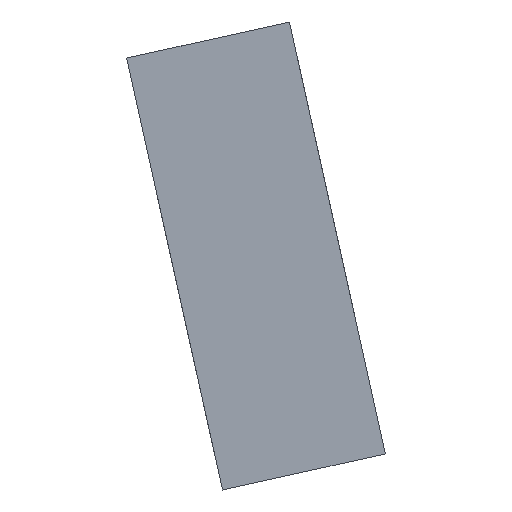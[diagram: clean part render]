
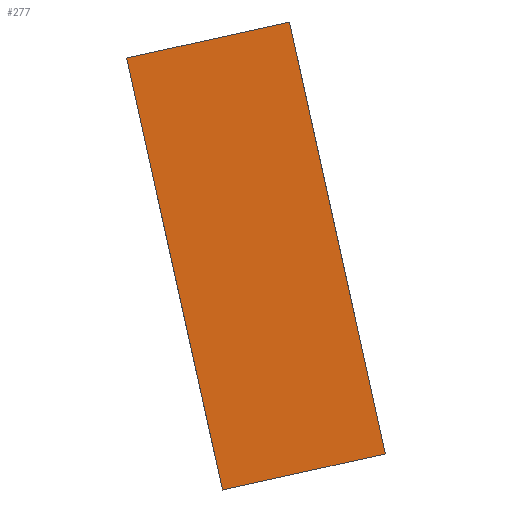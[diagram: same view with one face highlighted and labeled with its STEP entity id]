
A CAD part, front view. The second image highlights one B-rep face of the part: STEP entity #277.
In plain terms, the highlighted planar face has unit normal (0, -1, 0).
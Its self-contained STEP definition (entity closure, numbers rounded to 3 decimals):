
#21 = EDGE_CURVE('',#22,#24,#26,.T.);
#22 = VERTEX_POINT('',#23);
#23 = CARTESIAN_POINT('',(-9.183,217.255,-273.342));
#24 = VERTEX_POINT('',#25);
#25 = CARTESIAN_POINT('',(-17.839,217.255,-234.29));
#26 = SURFACE_CURVE('',#27,(#31,#43),.PCURVE_S1.);
#27 = LINE('',#28,#29);
#28 = CARTESIAN_POINT('',(-9.183,217.255,-273.342));
#29 = VECTOR('',#30,1.);
#30 = DIRECTION('',(-0.216,0.,0.976));
#31 = PCURVE('',#32,#37);
#32 = PLANE('',#33);
#33 = AXIS2_PLACEMENT_3D('',#34,#35,#36);
#34 = CARTESIAN_POINT('',(-9.183,217.255,-273.342));
#35 = DIRECTION('',(0.976,0.,0.216));
#36 = DIRECTION('',(-0.216,0.,0.976));
#37 = DEFINITIONAL_REPRESENTATION('',(#38),#42);
#38 = LINE('',#39,#40);
#39 = CARTESIAN_POINT('',(0.,0.));
#40 = VECTOR('',#41,1.);
#41 = DIRECTION('',(1.,0.));
#42 = ( GEOMETRIC_REPRESENTATION_CONTEXT(2) 
PARAMETRIC_REPRESENTATION_CONTEXT() REPRESENTATION_CONTEXT('2D SPACE',''
  ) );
#43 = PCURVE('',#44,#49);
#44 = PLANE('',#45);
#45 = AXIS2_PLACEMENT_3D('',#46,#47,#48);
#46 = CARTESIAN_POINT('',(-9.183,217.255,-273.342));
#47 = DIRECTION('',(0.,1.,0.));
#48 = DIRECTION('',(-0.216,0.,0.976));
#49 = DEFINITIONAL_REPRESENTATION('',(#50),#54);
#50 = LINE('',#51,#52);
#51 = CARTESIAN_POINT('',(0.,0.));
#52 = VECTOR('',#53,1.);
#53 = DIRECTION('',(1.,0.));
#54 = ( GEOMETRIC_REPRESENTATION_CONTEXT(2) 
PARAMETRIC_REPRESENTATION_CONTEXT() REPRESENTATION_CONTEXT('2D SPACE',''
  ) );
#72 = PLANE('',#73);
#73 = AXIS2_PLACEMENT_3D('',#74,#75,#76);
#74 = CARTESIAN_POINT('',(-9.183,217.255,-273.342));
#75 = DIRECTION('',(-0.216,0.,0.976));
#76 = DIRECTION('',(0.976,0.,0.216));
#126 = PLANE('',#127);
#127 = AXIS2_PLACEMENT_3D('',#128,#129,#130);
#128 = CARTESIAN_POINT('',(-17.839,217.255,-234.29));
#129 = DIRECTION('',(-0.216,0.,0.976));
#130 = DIRECTION('',(0.976,0.,0.216));
#277 = ADVANCED_FACE('',(#278),#44,.F.);
#278 = FACE_BOUND('',#279,.F.);
#279 = EDGE_LOOP('',(#280,#303,#304,#327));
#280 = ORIENTED_EDGE('',*,*,#281,.F.);
#281 = EDGE_CURVE('',#22,#282,#284,.T.);
#282 = VERTEX_POINT('',#283);
#283 = CARTESIAN_POINT('',(5.535,217.255,-270.08));
#284 = SURFACE_CURVE('',#285,(#289,#296),.PCURVE_S1.);
#285 = LINE('',#286,#287);
#286 = CARTESIAN_POINT('',(-9.183,217.255,-273.342));
#287 = VECTOR('',#288,1.);
#288 = DIRECTION('',(0.976,0.,0.216));
#289 = PCURVE('',#44,#290);
#290 = DEFINITIONAL_REPRESENTATION('',(#291),#295);
#291 = LINE('',#292,#293);
#292 = CARTESIAN_POINT('',(0.,0.));
#293 = VECTOR('',#294,1.);
#294 = DIRECTION('',(0.,1.));
#295 = ( GEOMETRIC_REPRESENTATION_CONTEXT(2) 
PARAMETRIC_REPRESENTATION_CONTEXT() REPRESENTATION_CONTEXT('2D SPACE',''
  ) );
#296 = PCURVE('',#72,#297);
#297 = DEFINITIONAL_REPRESENTATION('',(#298),#302);
#298 = LINE('',#299,#300);
#299 = CARTESIAN_POINT('',(0.,0.));
#300 = VECTOR('',#301,1.);
#301 = DIRECTION('',(1.,0.));
#302 = ( GEOMETRIC_REPRESENTATION_CONTEXT(2) 
PARAMETRIC_REPRESENTATION_CONTEXT() REPRESENTATION_CONTEXT('2D SPACE',''
  ) );
#303 = ORIENTED_EDGE('',*,*,#21,.T.);
#304 = ORIENTED_EDGE('',*,*,#305,.T.);
#305 = EDGE_CURVE('',#24,#306,#308,.T.);
#306 = VERTEX_POINT('',#307);
#307 = CARTESIAN_POINT('',(-3.121,217.255,-231.028));
#308 = SURFACE_CURVE('',#309,(#313,#320),.PCURVE_S1.);
#309 = LINE('',#310,#311);
#310 = CARTESIAN_POINT('',(-17.839,217.255,-234.29));
#311 = VECTOR('',#312,1.);
#312 = DIRECTION('',(0.976,0.,0.216));
#313 = PCURVE('',#44,#314);
#314 = DEFINITIONAL_REPRESENTATION('',(#315),#319);
#315 = LINE('',#316,#317);
#316 = CARTESIAN_POINT('',(40.,0.));
#317 = VECTOR('',#318,1.);
#318 = DIRECTION('',(0.,1.));
#319 = ( GEOMETRIC_REPRESENTATION_CONTEXT(2) 
PARAMETRIC_REPRESENTATION_CONTEXT() REPRESENTATION_CONTEXT('2D SPACE',''
  ) );
#320 = PCURVE('',#126,#321);
#321 = DEFINITIONAL_REPRESENTATION('',(#322),#326);
#322 = LINE('',#323,#324);
#323 = CARTESIAN_POINT('',(0.,0.));
#324 = VECTOR('',#325,1.);
#325 = DIRECTION('',(1.,0.));
#326 = ( GEOMETRIC_REPRESENTATION_CONTEXT(2) 
PARAMETRIC_REPRESENTATION_CONTEXT() REPRESENTATION_CONTEXT('2D SPACE',''
  ) );
#327 = ORIENTED_EDGE('',*,*,#328,.F.);
#328 = EDGE_CURVE('',#282,#306,#329,.T.);
#329 = SURFACE_CURVE('',#330,(#334,#341),.PCURVE_S1.);
#330 = LINE('',#331,#332);
#331 = CARTESIAN_POINT('',(5.535,217.255,-270.08));
#332 = VECTOR('',#333,1.);
#333 = DIRECTION('',(-0.216,0.,0.976));
#334 = PCURVE('',#44,#335);
#335 = DEFINITIONAL_REPRESENTATION('',(#336),#340);
#336 = LINE('',#337,#338);
#337 = CARTESIAN_POINT('',(0.,15.075));
#338 = VECTOR('',#339,1.);
#339 = DIRECTION('',(1.,0.));
#340 = ( GEOMETRIC_REPRESENTATION_CONTEXT(2) 
PARAMETRIC_REPRESENTATION_CONTEXT() REPRESENTATION_CONTEXT('2D SPACE',''
  ) );
#341 = PCURVE('',#342,#347);
#342 = PLANE('',#343);
#343 = AXIS2_PLACEMENT_3D('',#344,#345,#346);
#344 = CARTESIAN_POINT('',(5.535,217.255,-270.08));
#345 = DIRECTION('',(0.976,0.,0.216));
#346 = DIRECTION('',(-0.216,0.,0.976));
#347 = DEFINITIONAL_REPRESENTATION('',(#348),#352);
#348 = LINE('',#349,#350);
#349 = CARTESIAN_POINT('',(0.,0.));
#350 = VECTOR('',#351,1.);
#351 = DIRECTION('',(1.,0.));
#352 = ( GEOMETRIC_REPRESENTATION_CONTEXT(2) 
PARAMETRIC_REPRESENTATION_CONTEXT() REPRESENTATION_CONTEXT('2D SPACE',''
  ) );
